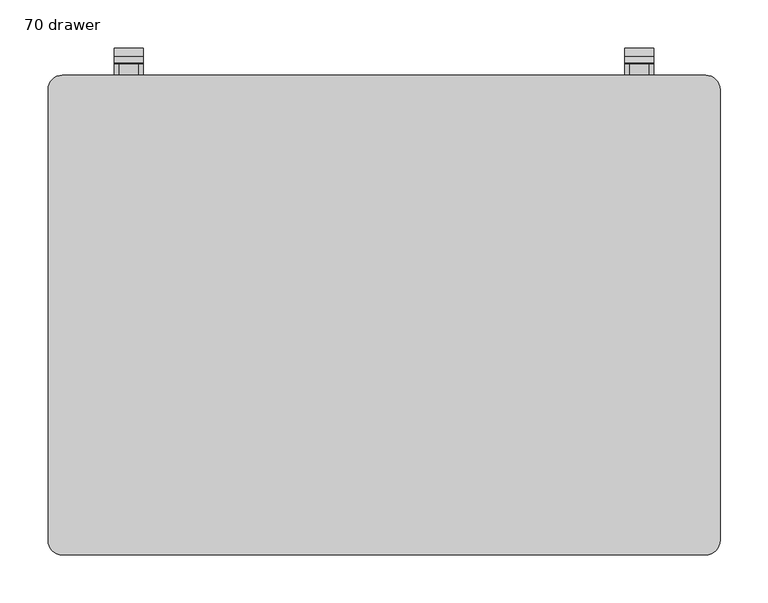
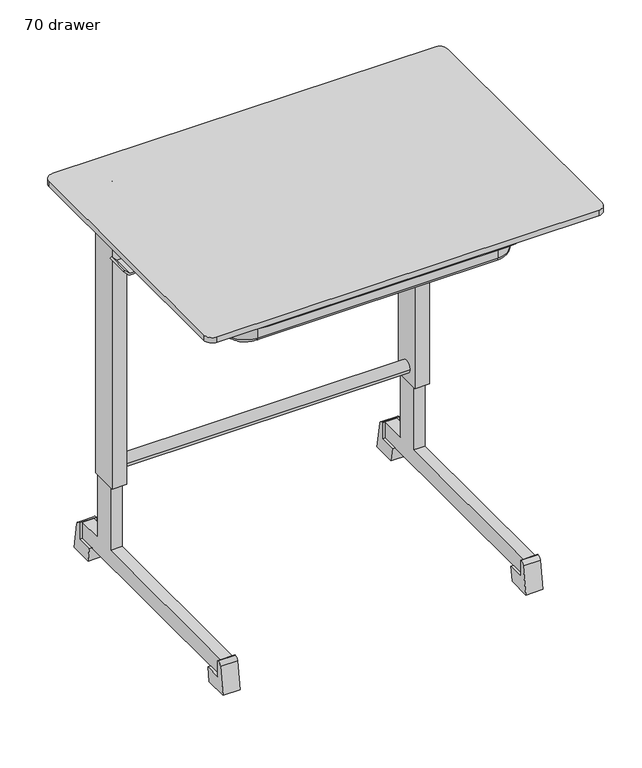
"""IFC4 building model written with IfcOpenShell, lengths in millimetres: furniture geometry, Trivia table : 70 drawer."""

from ifc_helpers import new_model, si_unit, point, frame, frame_2d, origin, place, context, project, spatial, polyline, circle_curve, ellipse_curve, trimmed, segment, composite_curve, outline, extrude, faceted_brep, source, transform, mapped, element, save
from ifc_brep_helpers import plane_surface, cylinder_surface, revolved_surface, advanced_brep


def furniture_70_drawer_569eea59(model_context):
    return source(origin(), model_context, "Body", "SolidModel", [
        advanced_brep(
        [(-242.1886902, -120.5095927, 696.521797), (-242.1886902, -120.5095927, 628.2965405), (-242.1886902, 129.6420925, 628.2965405), (-242.1886902, 144.6420925, 628.2965405), (-242.1886902, 144.6420925, 668.000493), (-242.1886902, 176.1657584, 668.000493), (-242.1886902, 176.1657584, 690.521797), (-242.1886902, 176.1657584, 696.521797), (-211.0, -151.6982829, 628.2965405), (211.0, -151.6982829, 628.2965405), (242.1886902, -120.5095927, 628.2965405), (242.1886902, 129.6420925, 628.2965405), (242.1886902, 144.6420925, 628.2965405), (242.1886902, -120.5095927, 622.2965405), (211.0, -151.6982829, 622.2965405), (-211.0, -151.6982829, 622.2965405), (-242.1886902, -120.5095927, 622.2965405), (-242.1886902, 129.6420925, 622.2965405), (-242.1886902, 144.6420925, 622.2965405), (242.1886902, 144.6420925, 622.2965405), (242.1886902, 129.6420925, 622.2965405), (-248.1886902, -120.5095927, 628.2965405), (-248.1886902, 150.6420925, 628.2965405), (-248.1886902, -120.5095927, 690.521797), (-248.1886902, 182.1657584, 690.521797), (-248.1886902, 182.1657584, 668.000493), (-248.1886902, 176.1657584, 662.000493), (-248.1886902, 150.6420925, 662.000493), (275.0, -120.5095927, 690.521797), (211.0, -184.5095927, 690.521797), (-211.0, -184.5095927, 690.521797), (-275.0, -120.5095927, 690.521797), (-275.0, 167.0000173, 690.521797), (-253.0, 167.0000173, 690.521797), (-253.0, 211.0000176, 690.521797), (253.0, 211.0000176, 690.521797), (253.0, 167.0000173, 690.521797), (275.0, 167.0000173, 690.521797), (-211.0, -157.6982829, 690.521797), (211.0, -157.6982829, 690.521797), (248.1886902, -120.5095927, 690.521797), (248.1886902, 182.1657584, 690.521797), (-281.0, -120.5095927, 670.0758066), (-281.0, -120.5095927, 696.521797), (-281.0, 167.0000173, 696.521797), (-281.0, 167.0000173, 670.0758066), (-211.0, -190.5095927, 696.521797), (211.0, -190.5095927, 696.521797), (281.0, -120.5095927, 696.521797), (281.0, 167.0000173, 696.521797), (253.0, 167.0000173, 696.521797), (253.0, 211.0000176, 696.521797), (-253.0, 211.0000176, 696.521797), (-253.0, 167.0000173, 696.521797), (242.1886902, -120.5095927, 696.521797), (211.0, -151.6982829, 696.521797), (-211.0, -151.6982829, 696.521797), (242.1886902, 176.1657584, 696.521797), (-211.0, -157.6982829, 628.2965405), (-211.0, -190.5095927, 670.0758066), (211.0, -157.6982829, 628.2965405), (211.0, -190.5095927, 670.0758066), (248.1886902, -120.5095927, 628.2965405), (281.0, -120.5095927, 670.0758066), (242.1886902, 176.1657584, 690.521797), (242.1886902, 176.1657584, 668.000493), (242.1886902, 144.6420925, 668.000493), (248.1886902, 150.6420925, 628.2965405), (248.1886902, 150.6420925, 662.000493), (248.1886902, 176.1657584, 662.000493), (248.1886902, 182.1657584, 668.000493), (281.0, 167.0000173, 670.0758066), (-242.1886902, 182.1657584, 668.000493), (242.1886902, 182.1657584, 668.000493), (-242.1886902, 176.1657584, 662.000493), (242.1886902, 176.1657584, 662.000493), (-253.0, 217.0000176, 662.000493), (-253.0, 211.0000176, 662.000493), (-253.0, 217.0000176, 690.521797), (253.0, 217.0000176, 690.521797), (253.0, 217.0000176, 662.000493), (253.0, 211.0000176, 662.000493), (-275.0, -120.5095927, 670.0758066), (-275.0, 167.0000173, 670.0758066), (-211.0, -184.5095927, 670.0758066), (211.0, -184.5095927, 670.0758066), (275.0, -120.5095927, 670.0758066), (275.0, 167.0000173, 670.0758066)],
        [
            (0, 1),
            (1, 2),
            (2, 3),
            (3, 4),
            (4, 5),
            (5, 6),
            (6, 7),
            (7, 0),
            (1, 8, circle_curve(frame((-211.0, -120.5095927, 628.2965405), z_axis=(0.0, 0.0, 1.0), x_axis=(-1.0, 0.0, 0.0)), 31.1886902)),
            (8, 9),
            (9, 10, circle_curve(frame((211.0, -120.5095927, 628.2965405), z_axis=(0.0, 0.0, 1.0), x_axis=(0.0, -1.0, 0.0)), 31.1886902)),
            (10, 11),
            (11, 12),
            (12, 3),
            (13, 14, circle_curve(frame((211.0, -120.5095927, 622.2965405), z_axis=(0.0, 0.0, -1.0), x_axis=(0.0, -1.0, 0.0)), 31.1886902)),
            (14, 15),
            (15, 16, circle_curve(frame((-211.0, -120.5095927, 622.2965405), z_axis=(0.0, 0.0, -1.0), x_axis=(-1.0, 0.0, 0.0)), 31.1886902)),
            (16, 17),
            (17, 18),
            (18, 19),
            (19, 20),
            (20, 13),
            (16, 21, circle_curve(frame((-242.1886902, -120.5095927, 628.2965405), z_axis=(0.0, 1.0, 0.0), x_axis=(1.0, 0.0, 0.0)), 6.0)),
            (21, 22),
            (22, 18, ellipse_curve(frame((-242.1886902, 144.6420925, 628.2965405), z_axis=(-0.707106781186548, -0.7071067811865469, 0.0), x_axis=(-0.7071067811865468, 0.7071067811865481, 0.0)), 8.4852814, 6.0)),
            (21, 23),
            (23, 24),
            (24, 25),
            (25, 26, circle_curve(frame((-248.1886902, 176.1657584, 668.000493), z_axis=(-1.0, 0.0, 0.0), x_axis=(0.0, 1.0, 0.0)), 6.0)),
            (26, 27),
            (27, 22),
            (28, 29, circle_curve(frame((211.0, -120.5095927, 690.521797), z_axis=(0.0, 0.0, -1.0), x_axis=(0.0, -1.0, 0.0)), 64.0)),
            (29, 30),
            (30, 31, circle_curve(frame((-211.0, -120.5095927, 690.521797), z_axis=(0.0, 0.0, -1.0), x_axis=(-1.0, 0.0, 0.0)), 64.0)),
            (31, 32),
            (32, 33),
            (33, 34),
            (34, 35),
            (35, 36),
            (36, 37),
            (37, 28),
            (23, 38, circle_curve(frame((-211.0, -120.5095927, 690.521797), z_axis=(0.0, 0.0, 1.0), x_axis=(-1.0, 0.0, 0.0)), 37.1886902)),
            (38, 39),
            (39, 40, circle_curve(frame((211.0, -120.5095927, 690.521797), z_axis=(0.0, 0.0, 1.0), x_axis=(0.0, -1.0, 0.0)), 37.1886902)),
            (40, 41),
            (41, 24),
            (42, 43),
            (43, 44),
            (44, 45),
            (45, 42),
            (43, 46, circle_curve(frame((-211.0, -120.5095927, 696.521797), z_axis=(0.0, 0.0, 1.0), x_axis=(-1.0, 0.0, 0.0)), 70.0)),
            (46, 47),
            (47, 48, circle_curve(frame((211.0, -120.5095927, 696.521797), z_axis=(0.0, 0.0, 1.0), x_axis=(0.0, -1.0, 0.0)), 70.0)),
            (48, 49),
            (49, 50),
            (50, 51),
            (51, 52),
            (52, 53),
            (53, 44),
            (54, 55, circle_curve(frame((211.0, -120.5095927, 696.521797), z_axis=(0.0, 0.0, -1.0), x_axis=(0.0, -1.0, 0.0)), 31.1886902)),
            (55, 56),
            (56, 0, circle_curve(frame((-211.0, -120.5095927, 696.521797), z_axis=(0.0, 0.0, -1.0), x_axis=(-1.0, 0.0, 0.0)), 31.1886902)),
            (7, 57),
            (57, 54),
            (56, 8),
            (15, 58, circle_curve(frame((-211.0, -151.6982829, 628.2965405), z_axis=(-1.0, 0.0, 0.0), x_axis=(0.0, 1.0, 0.0)), 6.0)),
            (58, 21, circle_curve(frame((-211.0, -120.5095927, 628.2965405), z_axis=(0.0, 0.0, -1.0), x_axis=(-1.0, 0.0, 0.0)), 37.1886902)),
            (58, 38),
            (42, 59, circle_curve(frame((-211.0, -120.5095927, 670.0758066), z_axis=(0.0, 0.0, 1.0), x_axis=(-1.0, 0.0, 0.0)), 70.0)),
            (59, 46),
            (55, 9),
            (14, 60, circle_curve(frame((211.0, -151.6982829, 628.2965405), z_axis=(-1.0, 0.0, 0.0), x_axis=(0.0, 1.0, 0.0)), 6.0)),
            (60, 58),
            (60, 39),
            (59, 61),
            (61, 47),
            (54, 10),
            (13, 62, circle_curve(frame((242.1886902, -120.5095927, 628.2965405), z_axis=(0.0, -1.0, 0.0), x_axis=(-1.0, 0.0, 0.0)), 6.0)),
            (62, 60, circle_curve(frame((211.0, -120.5095927, 628.2965405), z_axis=(0.0, 0.0, -1.0), x_axis=(0.0, -1.0, 0.0)), 37.1886902)),
            (62, 40),
            (61, 63, circle_curve(frame((211.0, -120.5095927, 670.0758066), z_axis=(0.0, 0.0, 1.0), x_axis=(0.0, -1.0, 0.0)), 70.0)),
            (63, 48),
            (57, 64),
            (64, 65),
            (65, 66),
            (66, 12),
            (19, 67, ellipse_curve(frame((242.1886902, 144.6420925, 628.2965405), z_axis=(0.7071067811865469, -0.707106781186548, 0.0), x_axis=(-0.7071067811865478, -0.707106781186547, 0.0)), 8.4852814, 6.0)),
            (67, 62),
            (67, 68),
            (68, 69),
            (69, 70, circle_curve(frame((248.1886902, 176.1657584, 668.000493), z_axis=(1.0, 0.0, 0.0), x_axis=(0.0, 1.0, 0.0)), 6.0)),
            (70, 41),
            (63, 71),
            (71, 49),
            (72, 25),
            (70, 73),
            (73, 72),
            (26, 74),
            (74, 75),
            (75, 69),
            (68, 27),
            (67, 22),
            (72, 74, circle_curve(frame((-242.1886902, 176.1657584, 668.000493), z_axis=(-1.0, 0.0, 0.0), x_axis=(0.0, 1.0, 0.0)), 6.0)),
            (75, 73, circle_curve(frame((242.1886902, 176.1657584, 668.000493), z_axis=(1.0, 0.0, 0.0), x_axis=(0.0, 1.0, 0.0)), 6.0)),
            (76, 77),
            (77, 34),
            (33, 53),
            (52, 78, circle_curve(frame((-253.0, 211.0000176, 690.521797), z_axis=(-1.0, 0.0, 0.0), x_axis=(0.0, 1.0, 0.0)), 6.0)),
            (78, 76),
            (79, 80),
            (80, 76),
            (78, 79),
            (5, 65),
            (4, 66),
            (51, 79, circle_curve(frame((253.0, 211.0000176, 690.521797), z_axis=(-1.0, 0.0, 0.0), x_axis=(0.0, 1.0, 0.0)), 6.0)),
            (81, 35),
            (77, 81),
            (80, 81),
            (31, 82),
            (82, 83),
            (83, 32),
            (45, 83),
            (82, 84, circle_curve(frame((-211.0, -120.5095927, 670.0758066), z_axis=(0.0, 0.0, 1.0), x_axis=(-1.0, 0.0, 0.0)), 64.0)),
            (84, 85),
            (85, 86, circle_curve(frame((211.0, -120.5095927, 670.0758066), z_axis=(0.0, 0.0, 1.0), x_axis=(0.0, -1.0, 0.0)), 64.0)),
            (86, 87),
            (87, 71),
            (30, 84),
            (29, 85),
            (28, 86),
            (37, 87),
            (50, 36),
        ],
        [
            plane_surface(frame((-242.1886902, 249.4904073, 696.521797), z_axis=(1.0, 0.0, 0.0), x_axis=(0.0, -1.0, 0.0))),
            plane_surface(frame((-242.1886902, 249.4904073, 628.2965405), z_axis=(0.0, 0.0, 1.0), x_axis=(0.0, -1.0, 0.0))),
            plane_surface(frame((-233.3465399, 249.4904073, 622.2965405), z_axis=(0.0, 0.0, -1.0), x_axis=(0.0, -1.0, 0.0))),
            cylinder_surface(frame((-242.1886902, 249.4904073, 628.2965405), z_axis=(0.0, 1.0, 0.0), x_axis=(1.0, 0.0, 0.0)), 6.0),
            plane_surface(frame((-248.1886902, 249.4904073, 628.2965405), z_axis=(-1.0, 0.0, 0.0), x_axis=(0.0, -1.0, 0.0))),
            plane_surface(frame((-248.1886902, 249.4904073, 690.521797), z_axis=(0.0, 0.0, -1.0), x_axis=(0.0, -1.0, 0.0))),
            plane_surface(frame((-281.0, 249.4904073, 670.0758066), z_axis=(-1.0, 0.0, 0.0), x_axis=(0.0, -1.0, 0.0))),
            plane_surface(frame((-281.0, 249.4904073, 696.521797), z_axis=(0.0, 0.0, 1.0), x_axis=(0.0, -1.0, 0.0))),
            revolved_surface(polyline([(-242.1886902, -120.5095927, 696.521797), (-242.1886902, -120.5095927, 628.2965405)]), (-211.0, -120.5095927, 729.9880943), (0.0, 0.0, 1.0)),
            revolved_surface(trimmed(ellipse_curve(frame((-242.1886902, -120.5095927, 628.2965405), z_axis=(0.0, 1.0, 0.0), x_axis=(1.0, 0.0, 0.0)), 6.0, 6.0), [point((-242.1886902, -120.5095927, 622.2965405))], [point((-248.1886902, -120.5095927, 628.2965405))], True, "CARTESIAN"), (-211.0, -120.5095927, 729.9880943), (0.0, 0.0, 1.0)),
            cylinder_surface(frame((-211.0, -120.5095927, 729.9880943), z_axis=(0.0, 0.0, 1.0), x_axis=(-1.0, 0.0, 0.0)), 37.1886902),
            cylinder_surface(frame((-211.0, -120.5095927, 729.9880943), z_axis=(0.0, 0.0, 1.0), x_axis=(-1.0, 0.0, 0.0)), 70.0),
            plane_surface(frame((-211.0, -151.6982829, 696.521797), z_axis=(0.0, 1.0, 0.0), x_axis=(1.0, 0.0, 0.0))),
            cylinder_surface(frame((-211.0, -151.6982829, 628.2965405), z_axis=(-1.0, 0.0, 0.0), x_axis=(0.0, 1.0, 0.0)), 6.0),
            plane_surface(frame((-211.0, -157.6982829, 628.2965405), z_axis=(0.0, -1.0, 0.0), x_axis=(1.0, 0.0, 0.0))),
            plane_surface(frame((-211.0, -190.5095927, 670.0758066), z_axis=(0.0, -1.0, 0.0), x_axis=(1.0, 0.0, 0.0))),
            revolved_surface(polyline([(211.0, -151.6982829, 696.521797), (211.0, -151.6982829, 628.2965405)]), (211.0, -120.5095927, 729.9880943), (0.0, 0.0, 1.0)),
            revolved_surface(trimmed(ellipse_curve(frame((211.0, -151.6982829, 628.2965405), z_axis=(-1.0, 0.0, 0.0), x_axis=(0.0, 1.0, 0.0)), 6.0, 6.0), [point((211.0, -151.6982829, 622.2965405))], [point((211.0, -157.6982829, 628.2965405))], True, "CARTESIAN"), (211.0, -120.5095927, 729.9880943), (0.0, 0.0, 1.0)),
            cylinder_surface(frame((211.0, -120.5095927, 729.9880943), z_axis=(0.0, 0.0, 1.0), x_axis=(0.0, -1.0, 0.0)), 37.1886902),
            cylinder_surface(frame((211.0, -120.5095927, 729.9880943), z_axis=(0.0, 0.0, 1.0), x_axis=(0.0, -1.0, 0.0)), 70.0),
            plane_surface(frame((242.1886902, -120.5095927, 696.521797), z_axis=(-1.0, 0.0, 0.0), x_axis=(0.0, 1.0, 0.0))),
            cylinder_surface(frame((242.1886902, -120.5095927, 628.2965405), z_axis=(0.0, -1.0, 0.0), x_axis=(-1.0, 0.0, 0.0)), 6.0),
            plane_surface(frame((248.1886902, -120.5095927, 628.2965405), z_axis=(1.0, 0.0, 0.0), x_axis=(0.0, 1.0, 0.0))),
            plane_surface(frame((281.0, -120.5095927, 670.0758066), z_axis=(1.0, 0.0, 0.0), x_axis=(0.0, 1.0, 0.0))),
            plane_surface(frame((300.0, 182.1657584, 696.521797), z_axis=(0.0, 1.0, 0.0), x_axis=(-1.0, 0.0, 0.0))),
            plane_surface(frame((300.0, 176.1657584, 662.000493), z_axis=(0.0, 0.0, -1.0), x_axis=(-1.0, 0.0, 0.0))),
            plane_surface(frame((300.0, 150.6420925, 662.000493), z_axis=(0.0, 1.0, 0.0), x_axis=(-1.0, 0.0, 0.0))),
            cylinder_surface(frame((-300.0, 176.1657584, 668.000493), z_axis=(-1.0, 0.0, 0.0), x_axis=(0.0, 1.0, 0.0)), 6.0),
            cylinder_surface(frame((-300.0, 144.6420925, 628.2965405), z_axis=(-1.0, 0.0, 0.0), x_axis=(0.0, 1.0, 0.0)), 6.0),
            plane_surface(frame((-253.0, 217.0000176, 696.521797), z_axis=(-1.0, 0.0, 0.0), x_axis=(0.0, 0.0, -1.0))),
            plane_surface(frame((253.0, 217.0000176, 662.000493), z_axis=(0.0, 1.0, 0.0), x_axis=(-1.0, 0.0, 0.0))),
            plane_surface(frame((253.0, 176.1657584, 696.521797), z_axis=(0.0, -1.0, 0.0), x_axis=(-1.0, 0.0, 0.0))),
            plane_surface(frame((253.0, 176.1657584, 668.000493), z_axis=(0.0, 0.0, 1.0), x_axis=(-1.0, 0.0, 0.0))),
            plane_surface(frame((253.0, 144.6420925, 668.000493), z_axis=(0.0, -1.0, 0.0), x_axis=(-1.0, 0.0, 0.0))),
            cylinder_surface(frame((-253.0, 176.1657584, 668.000493), z_axis=(1.0, 0.0, 0.0), x_axis=(0.0, 1.0, 0.0)), 6.0),
            cylinder_surface(frame((-253.0, 211.0000176, 690.521797), z_axis=(1.0, 0.0, 0.0), x_axis=(0.0, 1.0, 0.0)), 6.0),
            plane_surface(frame((253.0, 211.0000176, 690.521797), z_axis=(0.0, -1.0, 0.0), x_axis=(-1.0, 0.0, 0.0))),
            plane_surface(frame((253.0, 211.0000176, 662.000493), z_axis=(0.0, 0.0, -1.0), x_axis=(-1.0, 0.0, 0.0))),
            plane_surface(frame((-275.0, 249.4904073, 690.521797), z_axis=(1.0, 0.0, 0.0), x_axis=(0.0, -1.0, 0.0))),
            plane_surface(frame((-275.0, 249.4904073, 670.0758066), z_axis=(0.0, 0.0, -1.0), x_axis=(0.0, -1.0, 0.0))),
            revolved_surface(polyline([(-275.0, -120.5095927, 690.521797), (-275.0, -120.5095927, 670.0758066)]), (-211.0, -120.5095927, 729.9880943), (0.0, 0.0, 1.0)),
            plane_surface(frame((-211.0, -184.5095927, 690.521797), z_axis=(0.0, 1.0, 0.0), x_axis=(1.0, 0.0, 0.0))),
            revolved_surface(polyline([(211.0, -184.50959269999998, 690.521797), (211.0, -184.50959269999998, 670.0758066)]), (211.0, -120.5095927, 729.9880943), (0.0, 0.0, 1.0)),
            plane_surface(frame((275.0, -120.5095927, 690.521797), z_axis=(-1.0, 0.0, 0.0), x_axis=(0.0, 1.0, 0.0))),
            plane_surface(frame((253.0, 167.0000173, 696.521797), z_axis=(1.0, 0.0, 0.0), x_axis=(0.0, 0.0, 1.0))),
            plane_surface(frame((281.0, 167.0000173, 696.521797), z_axis=(0.0, 1.0, 0.0), x_axis=(-1.0, 0.0, 0.0))),
            plane_surface(frame((-281.0, 167.0000173, 622.2965405), z_axis=(0.0, 1.0, 0.0), x_axis=(1.0, 0.0, 0.0))),
        ],
        [
            (0, [[1, 2, 3, 4, 5, 6, 7, 8]]),
            (1, [[9, 10, 11, 12, 13, 14, -3, -2]]),
            (2, [[15, 16, 17, 18, 19, 20, 21, 22]]),
            (3, [[23, 24, 25, -19, -18]]),
            (4, [[26, 27, 28, 29, 30, 31, -24]]),
            (5, [[32, 33, 34, 35, 36, 37, 38, 39, 40, 41], [42, 43, 44, 45, 46, -27]]),
            (6, [[47, 48, 49, 50]]),
            (7, [[51, 52, 53, 54, 55, 56, 57, 58, 59, -48], [60, 61, 62, -8, 63, 64]]),
            (8, [[-1, -62, 65, -9]]),
            (9, [[-17, 66, 67, -23]]),
            (10, [[-26, -67, 68, -42]]),
            (11, [[-47, 69, 70, -51]]),
            (12, [[-10, -65, -61, 71]]),
            (13, [[-16, 72, 73, -66]]),
            (14, [[-43, -68, -73, 74]]),
            (15, [[-52, -70, 75, 76]]),
            (16, [[-11, -71, -60, 77]]),
            (17, [[-15, 78, 79, -72]]),
            (18, [[-44, -74, -79, 80]]),
            (19, [[-53, -76, 81, 82]]),
            (20, [[-77, -64, 83, 84, 85, 86, -13, -12]]),
            (21, [[-78, -22, -21, 87, 88]]),
            (22, [[-80, -88, 89, 90, 91, 92, -45]]),
            (23, [[-82, 93, 94, -54]]),
            (24, [[95, -28, -46, -92, 96, 97]]),
            (25, [[98, 99, 100, -90, 101, -30]]),
            (26, [[-31, -101, -89, 102]]),
            (27, [[-98, -29, -95, 103]]),
            (27, [[-100, 104, -96, -91]]),
            (28, [[-20, -25, -102, -87]]),
            (29, [[105, 106, -37, 107, -58, 108, 109]]),
            (30, [[110, 111, -109, 112]]),
            (31, [[113, -84, -83, -63, -7, -6]]),
            (32, [[-113, -5, 114, -85]]),
            (33, [[-114, -4, -14, -86]]),
            (34, [[-99, -103, -97, -104]]),
            (35, [[115, -112, -108, -57]]),
            (36, [[116, -38, -106, 117]]),
            (37, [[118, -117, -105, -111]]),
            (38, [[119, 120, 121, -35]]),
            (39, [[-69, -50, 122, -120, 123, 124, 125, 126, 127, -93, -81, -75]]),
            (40, [[-34, 128, -123, -119]]),
            (41, [[-33, 129, -124, -128]]),
            (42, [[-32, 130, -125, -129]]),
            (43, [[-130, -41, 131, -126]]),
            (44, [[132, -39, -116, -118, -110, -115, -56]]),
            (45, [[-132, -55, -94, -127, -131, -40]]),
            (46, [[-107, -36, -121, -122, -49, -59]]),
        ],
    ),
        extrude(outline(polyline([(-279.0, 167.0000173), (-279.0, 217.0000176), (-253.0, 217.0000176), (-253.0, 167.0000173), (-279.0, 167.0000173)])), frame((0.0, 0.0, 690.521797), z_axis=(0.0, 0.0, 1.0), x_axis=(1.0, 0.0, 0.0)), (0.0, 0.0, 1.0), 6.0),
        extrude(outline(polyline([(279.0, 217.0000176), (279.0, 167.0000173), (253.0, 167.0000173), (253.0, 217.0000176), (279.0, 217.0000176)])), frame((0.0, 0.0, 690.521797), z_axis=(0.0, 0.0, 1.0), x_axis=(1.0, 0.0, 0.0)), (0.0, 0.0, 1.0), 6.0),
        extrude(outline(polyline([(-280.0, 154.8817352), (-280.0, 205.0), (-252.0, 205.0), (-252.0, 154.8817352), (-280.0, 154.8817352)])), frame((0.0, 0.0, 717.4021535), z_axis=(0.0, 0.0, 1.0), x_axis=(1.0, 0.0, 0.0)), (0.0, 0.0, 1.0), 2.5978465),
        extrude(outline(composite_curve([segment(trimmed(circle_curve(frame_2d((206.4529115, 710.0282538)), 9.7445512), [point((206.4529115, 719.772805))], [point((202.571446, 701.0901051))], False, "CARTESIAN"), True, "CONTINUOUS"), segment(polyline([(202.571446, 701.0901051), (172.337409, 717.4021535), (172.337409, 719.772805), (206.4529115, 719.772805)]), True, "CONTINUOUS")], self_intersect=False)), frame((-255.0, 0.0, 0.0), z_axis=(1.0, 0.0, 0.0), x_axis=(0.0, 1.0, 0.0)), (0.0, 0.0, 1.0), 3.0),
        extrude(outline(composite_curve([segment(polyline([(209.8609292, 696.5337027), (172.337409, 696.5337027), (172.337409, 698.9043541), (202.8945629, 715.3907325)]), True, "CONTINUOUS"), segment(trimmed(circle_curve(frame_2d((206.1065452, 709.4373912)), 6.7645475), [point((202.8945629, 715.3907325))], [point((212.6701567, 707.800899))], False, "CARTESIAN"), True, "CONTINUOUS"), segment(polyline([(212.6701567, 707.800899), (209.8609292, 696.5337027)]), True, "CONTINUOUS")], self_intersect=False), holes=[composite_curve([segment(trimmed(circle_curve(frame_2d((206.4529115, 710.0282538)), 3.0), [point((203.4529115, 710.0282538))], [point((209.4529115, 710.0282538))], True, "CARTESIAN"), True, "CONTINUOUS"), segment(trimmed(circle_curve(frame_2d((206.4529115, 710.0282538)), 3.0), [point((209.4529115, 710.0282538))], [point((203.4529115, 710.0282538))], True, "CARTESIAN"), True, "CONTINUOUS")], self_intersect=False)]), frame((-258.0, 0.0, 0.0), z_axis=(1.0, 0.0, 0.0), x_axis=(0.0, 1.0, 0.0)), (0.0, 0.0, 1.0), 3.0),
        extrude(outline(polyline([(280.0, 205.0), (280.0, 154.8817352), (252.0, 154.8817352), (252.0, 205.0), (280.0, 205.0)])), frame((0.0, 0.0, 717.4021535), z_axis=(0.0, 0.0, 1.0), x_axis=(1.0, 0.0, 0.0)), (0.0, 0.0, 1.0), 2.5978465),
        extrude(outline(composite_curve([segment(trimmed(circle_curve(frame_2d((206.4529115, 710.0282538)), 9.7445512), [point((206.4529115, 719.772805))], [point((202.571446, 701.0901051))], False, "CARTESIAN"), True, "CONTINUOUS"), segment(polyline([(202.571446, 701.0901051), (172.337409, 717.4021535), (172.337409, 719.772805), (206.4529115, 719.772805)]), True, "CONTINUOUS")], self_intersect=False)), frame((252.0, 0.0, 0.0), z_axis=(1.0, 0.0, 0.0), x_axis=(0.0, 1.0, 0.0)), (0.0, 0.0, 1.0), 3.0),
        extrude(outline(composite_curve([segment(polyline([(209.8609292, 696.5337027), (172.337409, 696.5337027), (172.337409, 698.9043541), (202.8945629, 715.3907325)]), True, "CONTINUOUS"), segment(trimmed(circle_curve(frame_2d((206.1065452, 709.4373912)), 6.7645475), [point((202.8945629, 715.3907325))], [point((212.6701567, 707.800899))], False, "CARTESIAN"), True, "CONTINUOUS"), segment(polyline([(212.6701567, 707.800899), (209.8609292, 696.5337027)]), True, "CONTINUOUS")], self_intersect=False), holes=[composite_curve([segment(trimmed(circle_curve(frame_2d((206.4529115, 710.0282538)), 3.0), [point((203.4529115, 710.0282538))], [point((209.4529115, 710.0282538))], True, "CARTESIAN"), True, "CONTINUOUS"), segment(trimmed(circle_curve(frame_2d((206.4529115, 710.0282538)), 3.0), [point((209.4529115, 710.0282538))], [point((203.4529115, 710.0282538))], True, "CARTESIAN"), True, "CONTINUOUS")], self_intersect=False)]), frame((255.0, 0.0, 0.0), z_axis=(1.0, 0.0, 0.0), x_axis=(0.0, 1.0, 0.0)), (0.0, 0.0, 1.0), 3.0),
        extrude(outline(composite_curve([segment(trimmed(circle_curve(frame_2d((-123.5, -170.1982829)), 8.0), [point((-131.5, -170.1982829))], [point((-115.5, -170.1982829))], False, "CARTESIAN"), True, "CONTINUOUS"), segment(trimmed(circle_curve(frame_2d((-123.5, -170.1982829)), 8.0), [point((-115.5, -170.1982829))], [point((-131.5, -170.1982829))], False, "CARTESIAN"), True, "CONTINUOUS")], self_intersect=False)), frame((0.0, 0.0, 696.5337027), z_axis=(0.0, 0.0, 1.0), x_axis=(1.0, 0.0, 0.0)), (0.0, 0.0, 1.0), 23.4662973),
        extrude(outline(composite_curve([segment(trimmed(circle_curve(frame_2d((123.5, -170.1982829)), 8.0), [point((115.5, -170.1982829))], [point((131.5, -170.1982829))], False, "CARTESIAN"), True, "CONTINUOUS"), segment(trimmed(circle_curve(frame_2d((123.5, -170.1982829)), 8.0), [point((131.5, -170.1982829))], [point((115.5, -170.1982829))], False, "CARTESIAN"), True, "CONTINUOUS")], self_intersect=False)), frame((0.0, 0.0, 696.5337027), z_axis=(0.0, 0.0, 1.0), x_axis=(1.0, 0.0, 0.0)), (0.0, 0.0, 1.0), 23.4662973),
        extrude(outline(composite_curve([segment(polyline([(335.0, -250.0), (-335.0, -250.0)]), True, "CONTINUOUS"), segment(trimmed(circle_curve(frame_2d((-335.0, -235.0)), 15.0), [point((-335.0, -250.0))], [point((-350.0, -235.0))], False, "CARTESIAN"), True, "CONTINUOUS"), segment(polyline([(-350.0, -235.0), (-350.0, 235.0)]), True, "CONTINUOUS"), segment(trimmed(circle_curve(frame_2d((-335.0, 235.0)), 15.0), [point((-350.0, 235.0))], [point((-335.0, 250.0))], False, "CARTESIAN"), True, "CONTINUOUS"), segment(polyline([(-335.0, 250.0), (335.0, 250.0)]), True, "CONTINUOUS"), segment(trimmed(circle_curve(frame_2d((335.0, 235.0)), 15.0), [point((335.0, 250.0))], [point((350.0, 235.0))], False, "CARTESIAN"), True, "CONTINUOUS"), segment(polyline([(350.0, 235.0), (350.0, -235.0)]), True, "CONTINUOUS"), segment(trimmed(circle_curve(frame_2d((335.0, -235.0)), 15.0), [point((350.0, -235.0))], [point((335.0, -250.0))], False, "CARTESIAN"), True, "CONTINUOUS")], self_intersect=False)), frame((0.0, 0.0, 720.0), z_axis=(0.0, 0.0, 1.0), x_axis=(1.0, 0.0, 0.0)), (0.0, 0.0, 1.0), 10.0),
        faceted_brep([(-256.0, 167.0000173, 669.978232), (-256.0, 167.0000173, 624.071059), (-259.0, 167.0000173, 624.071059), (-259.0, 167.0000173, 669.978232), (-256.0, 138.1962488, 624.071059), (-259.0, 138.1962488, 624.071059), (-256.0, 97.8407812, 617.478232), (-256.0, 97.8407812, 669.978232), (-259.0, 97.8407812, 669.978232), (-259.0, 97.8407812, 620.478232), (-287.2573593, 97.8407812, 620.478232), (-296.274477, 97.8407812, 629.4953497), (-298.3957973, 97.8407812, 627.3740293), (-288.5, 97.8407812, 617.478232), (-256.0, 138.1962488, 617.478232), (-288.5, 138.1962488, 617.478232), (-298.3957973, 138.1962488, 627.3740293), (-296.274477, 138.1962488, 629.4953497), (-287.2573593, 138.1962488, 620.478232), (-259.0, 138.1962488, 620.478232)], [[[0, 1, 2, 3]], [[2, 1, 4, 5]], [[6, 7, 8, 9, 10, 11, 12, 13]], [[14, 15, 16, 17, 18, 19, 5, 4]], [[10, 9, 19, 18]], [[11, 10, 18, 17]], [[12, 11, 17, 16]], [[13, 12, 16, 15]], [[6, 13, 15, 14]], [[9, 8, 3, 2, 5, 19]], [[7, 6, 14, 4, 1, 0]], [[8, 7, 0, 3]]]),
        faceted_brep([(256.0, 167.0000173, 669.978232), (259.0, 167.0000173, 669.978232), (259.0, 167.0000173, 624.071059), (256.0, 167.0000173, 624.071059), (259.0, 97.8407812, 669.978232), (259.0, 97.8407812, 620.478232), (259.0, 138.1962488, 620.478232), (259.0, 138.1962488, 624.071059), (256.0, 138.1962488, 624.071059), (256.0, 138.1962488, 617.478232), (256.0, 97.8407812, 617.478232), (256.0, 97.8407812, 669.978232), (288.5, 97.8407812, 617.478232), (298.3957973, 97.8407812, 627.3740293), (296.274477, 97.8407812, 629.4953497), (287.2573593, 97.8407812, 620.478232), (287.2573593, 138.1962488, 620.478232), (296.274477, 138.1962488, 629.4953497), (298.3957973, 138.1962488, 627.3740293), (288.5, 138.1962488, 617.478232)], [[[0, 1, 2, 3]], [[2, 1, 4, 5, 6, 7]], [[3, 2, 7, 8]], [[0, 3, 8, 9, 10, 11]], [[10, 12, 13, 14, 15, 5, 4, 11]], [[6, 16, 17, 18, 19, 9, 8, 7]], [[5, 15, 16, 6]], [[15, 14, 17, 16]], [[14, 13, 18, 17]], [[13, 12, 19, 18]], [[12, 10, 9, 19]], [[1, 0, 11, 4]]]),
        extrude(outline(polyline([(-279.0, 167.0000173), (-279.0, 217.0000176), (-253.0, 217.0000176), (-253.0, 167.0000173), (-279.0, 167.0000173)])), frame((0.0, 0.0, 175.0), z_axis=(0.0, 0.0, 1.0), x_axis=(1.0, 0.0, 0.0)), (0.0, 0.0, 1.0), 515.000029),
        extrude(outline(polyline([(279.0, 217.0000176), (279.0, 167.0000173), (253.0, 167.0000173), (253.0, 217.0000176), (279.0, 217.0000176)])), frame((0.0, 0.0, 175.0), z_axis=(0.0, 0.0, 1.0), x_axis=(1.0, 0.0, 0.0)), (0.0, 0.0, 1.0), 515.000029),
        extrude(outline(composite_curve([segment(polyline([(236.4808233, 0.0), (232.2713678, 25.0000002), (262.3523545, 25.0000002), (262.3523545, 54.9999995), (263.3217876, 54.9999995)]), True, "CONTINUOUS"), segment(trimmed(circle_curve(frame_2d((263.3217876, 48.0256071)), 6.9743924), [point((263.3217876, 54.9999995))], [point((270.1993675, 49.1836417))], False, "CARTESIAN"), True, "CONTINUOUS"), segment(polyline([(270.1993675, 49.1836417), (278.4808214, 0.0), (236.4808233, 0.0)]), True, "CONTINUOUS")], self_intersect=False)), frame((-281.0, 0.0, 0.0), z_axis=(1.0, 0.0, 0.0), x_axis=(0.0, 1.0, 0.0)), (0.0, 0.0, 1.0), 30.0),
        extrude(outline(composite_curve([segment(polyline([(-132.5791756, 0.0), (-174.5791737, 0.0), (-166.2977198, 49.1836417)]), True, "CONTINUOUS"), segment(trimmed(circle_curve(frame_2d((-159.4201399, 48.0256071)), 6.9743924), [point((-166.2977198, 49.1836417))], [point((-159.4201399, 54.9999995))], False, "CARTESIAN"), True, "CONTINUOUS"), segment(polyline([(-159.4201399, 54.9999995), (-158.4507069, 54.9999995), (-158.4507069, 25.0000002), (-128.3697201, 25.0000002), (-132.5791756, 0.0)]), True, "CONTINUOUS")], self_intersect=False)), frame((-281.0, 0.0, 0.0), z_axis=(1.0, 0.0, 0.0), x_axis=(0.0, 1.0, 0.0)), (0.0, 0.0, 1.0), 30.0),
        extrude(outline(polyline([(215.2376978, 54.9999995), (262.3523545, 54.9999995), (262.3523545, 25.0000002), (-158.4507069, 25.0000002), (-158.4507069, 54.9999995), (176.2500158, 54.9999995), (176.2500158, 175.0), (215.2376978, 175.0), (215.2376978, 54.9999995)])), frame((-276.0, 0.0, 0.0), z_axis=(1.0, 0.0, 0.0), x_axis=(0.0, 1.0, 0.0)), (0.0, 0.0, 1.0), 20.0),
        extrude(outline(composite_curve([segment(polyline([(236.4808233, 0.0), (232.2713678, 25.0000002), (262.3523545, 25.0000002), (262.3523545, 54.9999995), (263.3217876, 54.9999995)]), True, "CONTINUOUS"), segment(trimmed(circle_curve(frame_2d((263.3217876, 48.0256071)), 6.9743924), [point((263.3217876, 54.9999995))], [point((270.1993675, 49.1836417))], False, "CARTESIAN"), True, "CONTINUOUS"), segment(polyline([(270.1993675, 49.1836417), (278.4808214, 0.0), (236.4808233, 0.0)]), True, "CONTINUOUS")], self_intersect=False)), frame((251.0, 0.0, 0.0), z_axis=(1.0, 0.0, 0.0), x_axis=(0.0, 1.0, 0.0)), (0.0, 0.0, 1.0), 30.0),
        extrude(outline(composite_curve([segment(polyline([(-132.5791756, 0.0), (-174.5791737, 0.0), (-166.2977198, 49.1836417)]), True, "CONTINUOUS"), segment(trimmed(circle_curve(frame_2d((-159.4201399, 48.0256071)), 6.9743924), [point((-166.2977198, 49.1836417))], [point((-159.4201399, 54.9999995))], False, "CARTESIAN"), True, "CONTINUOUS"), segment(polyline([(-159.4201399, 54.9999995), (-158.4507069, 54.9999995), (-158.4507069, 25.0000002), (-128.3697201, 25.0000002), (-132.5791756, 0.0)]), True, "CONTINUOUS")], self_intersect=False)), frame((251.0, 0.0, 0.0), z_axis=(1.0, 0.0, 0.0), x_axis=(0.0, 1.0, 0.0)), (0.0, 0.0, 1.0), 30.0),
        extrude(outline(polyline([(215.2376978, 54.9999995), (262.3523545, 54.9999995), (262.3523545, 25.0000002), (-158.4507069, 25.0000002), (-158.4507069, 54.9999995), (176.2500158, 54.9999995), (176.2500158, 175.0), (215.2376978, 175.0), (215.2376978, 54.9999995)])), frame((256.0, 0.0, 0.0), z_axis=(1.0, 0.0, 0.0), x_axis=(0.0, 1.0, 0.0)), (0.0, 0.0, 1.0), 20.0),
        extrude(outline(composite_curve([segment(trimmed(circle_curve(frame_2d((211.0, -117.0000068)), 45.0), [point((211.0, -162.0000068))], [point((256.0, -117.0000068))], True, "CARTESIAN"), True, "CONTINUOUS"), segment(polyline([(256.0, -117.0000068), (256.0, 167.0000173), (276.0, 167.0000173), (276.0, -117.0000067)]), True, "CONTINUOUS"), segment(trimmed(circle_curve(frame_2d((211.0, -117.0000068)), 65.0), [point((276.0, -117.0000067))], [point((211.0, -182.0000068))], False, "CARTESIAN"), True, "CONTINUOUS"), segment(polyline([(211.0, -182.0000068), (-211.0, -182.0000067)]), True, "CONTINUOUS"), segment(trimmed(circle_curve(frame_2d((-211.0, -117.0000068)), 65.0), [point((-211.0, -182.0000067))], [point((-276.0, -117.0000068))], False, "CARTESIAN"), True, "CONTINUOUS"), segment(polyline([(-276.0, -117.0000068), (-276.0, 167.0000173), (-256.0, 167.0000173), (-256.0, -117.0000068)]), True, "CONTINUOUS"), segment(trimmed(circle_curve(frame_2d((-211.0, -117.0000068)), 45.0), [point((-256.0, -117.0000068))], [point((-211.0, -162.0000068))], True, "CARTESIAN"), True, "CONTINUOUS"), segment(polyline([(-211.0, -162.0000068), (211.0, -162.0000068)]), True, "CONTINUOUS")], self_intersect=False)), frame((0.0, 0.0, 669.978232), z_axis=(0.0, 0.0, 1.0), x_axis=(1.0, 0.0, 0.0)), (0.0, 0.0, 1.0), 20.0094431),
        extrude(outline(composite_curve([segment(trimmed(circle_curve(frame_2d((192.0000175, 202.0000098)), 11.0), [point((181.0000175, 202.0000098))], [point((203.0000175, 202.0000098))], False, "CARTESIAN"), True, "CONTINUOUS"), segment(trimmed(circle_curve(frame_2d((192.0000175, 202.0000098)), 11.0), [point((203.0000175, 202.0000098))], [point((181.0000175, 202.0000098))], False, "CARTESIAN"), True, "CONTINUOUS")], self_intersect=False)), frame((-253.0, 0.0, 0.0), z_axis=(1.0, 0.0, 0.0), x_axis=(0.0, 1.0, 0.0)), (0.0, 0.0, 1.0), 506.0),
        extrude(outline(polyline([(253.0, 209.9876913), (253.0, 190.0123117), (-253.0, 190.0123117), (-253.0, 209.9876913), (253.0, 209.9876913)])), frame((0.0, 0.0, 660.0123245), z_axis=(0.0, 0.0, 1.0), x_axis=(1.0, 0.0, 0.0)), (0.0, 0.0, 1.0), 29.9753506),
    ])


if __name__ == "__main__":
    model = new_model("IFC4")
    model_context = context("Model", 3, world=origin())
    ifc_project = project(units=[si_unit("LENGTHUNIT", "METRE", prefix="MILLI")], contexts=[model_context])
    site = spatial("IfcSite", under=ifc_project)
    building = spatial("IfcBuilding", under=site)
    placement = place(None, origin())
    furniture_70_drawer_shape = furniture_70_drawer_569eea59(model_context)
    element("IfcFurniture", 1, ObjectType="Trivia table : 70 drawer", at=placement, inside=building, context=model_context, shape_type="MappedRepresentation", body=[
        mapped(furniture_70_drawer_shape, transform((0.0, 0.0, 0.0), x_axis=(1.0, 0.0, 0.0), y_axis=(0.0, 1.0, 0.0), z_axis=(0.0, 0.0, 1.0))),
    ])
    save(model, "model.ifc")
